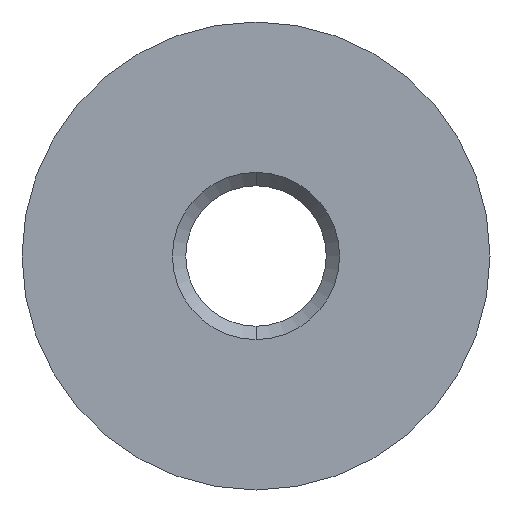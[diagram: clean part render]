
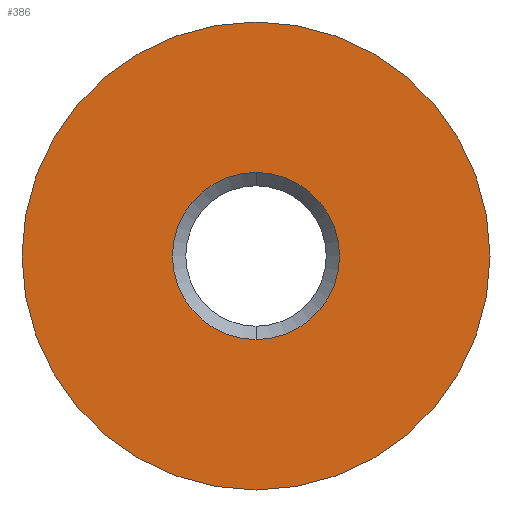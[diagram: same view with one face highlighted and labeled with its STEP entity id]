
A CAD part, front view. The second image highlights one B-rep face of the part: STEP entity #386.
In plain terms, the highlighted planar face has unit normal (0, -1, 0).
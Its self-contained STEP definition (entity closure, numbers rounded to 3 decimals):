
#1 = CARTESIAN_POINT ( 'NONE',  ( 0., -5., 0. ) ) ;
#6 = ORIENTED_EDGE ( 'NONE', *, *, #223, .T. ) ;
#22 = DIRECTION ( 'NONE',  ( 0., 0., -1. ) ) ;
#28 = VERTEX_POINT ( 'NONE', #340 ) ;
#46 = AXIS2_PLACEMENT_3D ( 'NONE', #1, #202, #375 ) ;
#59 = CARTESIAN_POINT ( 'NONE',  ( -2.5, -5., 0. ) ) ;
#69 = CIRCLE ( 'NONE', #46, 2.5 ) ;
#70 = CARTESIAN_POINT ( 'NONE',  ( 0., -5., 0. ) ) ;
#75 = CARTESIAN_POINT ( 'NONE',  ( 0., -5., 0. ) ) ;
#76 = EDGE_CURVE ( 'NONE', #250, #129, #69, .T. ) ;
#83 = DIRECTION ( 'NONE',  ( 0., -1., 0. ) ) ;
#105 = CARTESIAN_POINT ( 'NONE',  ( 0., -5., 0. ) ) ;
#110 = VERTEX_POINT ( 'NONE', #222 ) ;
#116 = CIRCLE ( 'NONE', #134, 7. ) ;
#119 = DIRECTION ( 'NONE',  ( 0., 0., 1. ) ) ;
#121 = FACE_OUTER_BOUND ( 'NONE', #234, .T. ) ;
#129 = VERTEX_POINT ( 'NONE', #171 ) ;
#134 = AXIS2_PLACEMENT_3D ( 'NONE', #105, #312, #244 ) ;
#148 = PLANE ( 'NONE',  #359 ) ;
#159 = AXIS2_PLACEMENT_3D ( 'NONE', #70, #351, #299 ) ;
#171 = CARTESIAN_POINT ( 'NONE',  ( 0., -5., 2.5 ) ) ;
#189 = EDGE_LOOP ( 'NONE', ( #269, #293 ) ) ;
#202 = DIRECTION ( 'NONE',  ( 0., -1., 0. ) ) ;
#211 = CIRCLE ( 'NONE', #262, 2.5 ) ;
#222 = CARTESIAN_POINT ( 'NONE',  ( 0., -5., 7. ) ) ;
#223 = EDGE_CURVE ( 'NONE', #28, #110, #245, .T. ) ;
#230 = DIRECTION ( 'NONE',  ( 0., 1., 0. ) ) ;
#231 = EDGE_CURVE ( 'NONE', #110, #28, #116, .T. ) ;
#234 = EDGE_LOOP ( 'NONE', ( #6, #350 ) ) ;
#244 = DIRECTION ( 'NONE',  ( 0., 0., -1. ) ) ;
#245 = CIRCLE ( 'NONE', #159, 7. ) ;
#250 = VERTEX_POINT ( 'NONE', #317 ) ;
#262 = AXIS2_PLACEMENT_3D ( 'NONE', #75, #83, #22 ) ;
#269 = ORIENTED_EDGE ( 'NONE', *, *, #76, .F. ) ;
#293 = ORIENTED_EDGE ( 'NONE', *, *, #353, .F. ) ;
#299 = DIRECTION ( 'NONE',  ( 0., 0., -1. ) ) ;
#312 = DIRECTION ( 'NONE',  ( 0., -1., 0. ) ) ;
#317 = CARTESIAN_POINT ( 'NONE',  ( 0., -5., -2.5 ) ) ;
#337 = FACE_BOUND ( 'NONE', #189, .T. ) ;
#340 = CARTESIAN_POINT ( 'NONE',  ( 0., -5., -7. ) ) ;
#350 = ORIENTED_EDGE ( 'NONE', *, *, #231, .T. ) ;
#351 = DIRECTION ( 'NONE',  ( 0., -1., 0. ) ) ;
#353 = EDGE_CURVE ( 'NONE', #129, #250, #211, .T. ) ;
#359 = AXIS2_PLACEMENT_3D ( 'NONE', #59, #230, #119 ) ;
#375 = DIRECTION ( 'NONE',  ( 0., 0., -1. ) ) ;
#386 = ADVANCED_FACE ( 'NONE', ( #337, #121 ), #148, .F. ) ;
